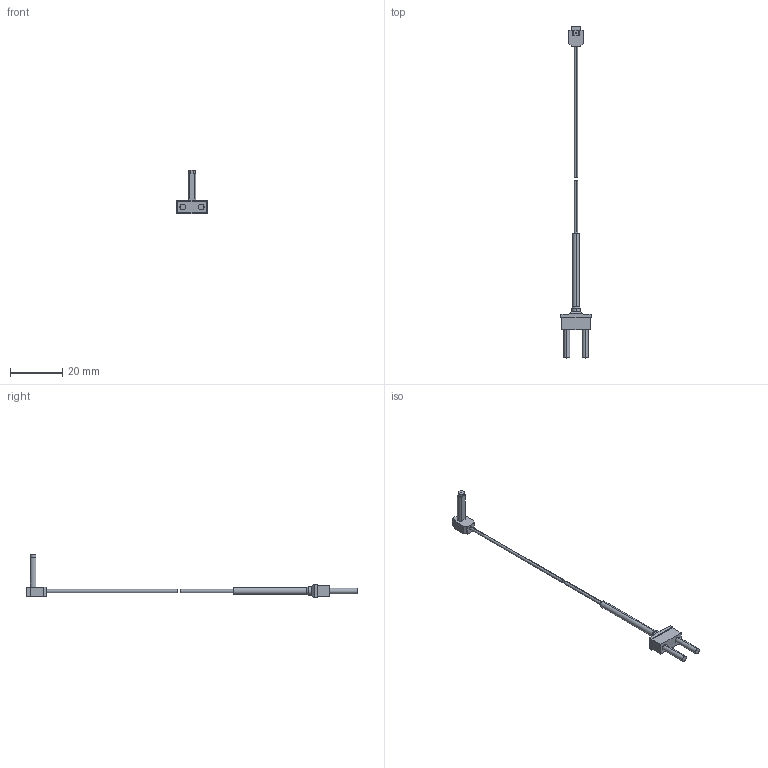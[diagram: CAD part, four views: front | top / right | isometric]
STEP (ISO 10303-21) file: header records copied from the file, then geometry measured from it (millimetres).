
FILE_DESCRIPTION (( 'STEP AP203' ), '1' );
FILE_NAME ('fd-r33eg.STEP', '2013-01-25T08:04:56', ( 'user' ), ( '' ), 'SwSTEP 2.0', 'SolidWorks 2010', '' );
FILE_SCHEMA (( 'CONFIG_CONTROL_DESIGN' ));
Length unit declared in the file: millimetre
Products named in the file (1): fd-r33eg
Bounding box: 11.6 x 126.7 x 16.55 mm (x, y, z)
Volume: 849.3 mm3; surface area: 1244.1 mm2
Topology: 2 solids, 2 shells, 64 faces, 152 edges, 100 vertices
Faces by surface type: plane 42, cylinder 20, cone 2
Entity records: 1919 total; most frequent: DIRECTION 322, CARTESIAN_POINT 317, ORIENTED_EDGE 304, EDGE_CURVE 152, LINE 112, VECTOR 112, AXIS2_PLACEMENT_3D 105, VERTEX_POINT 100
